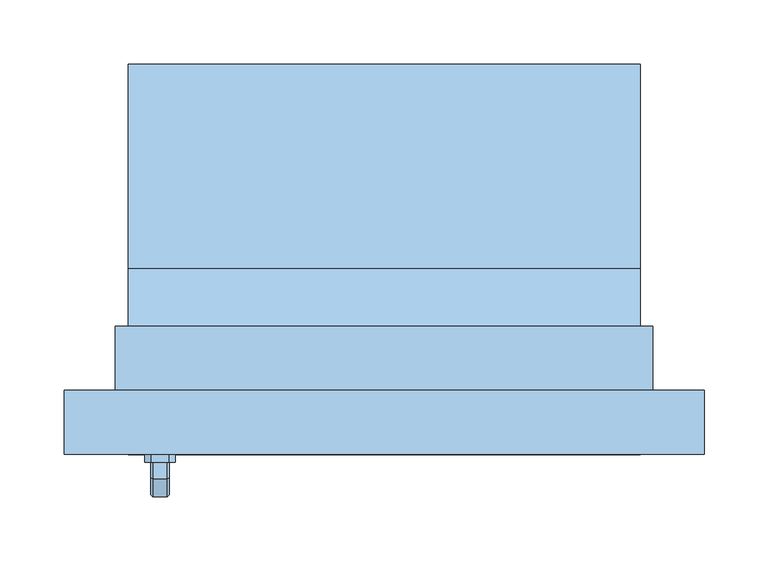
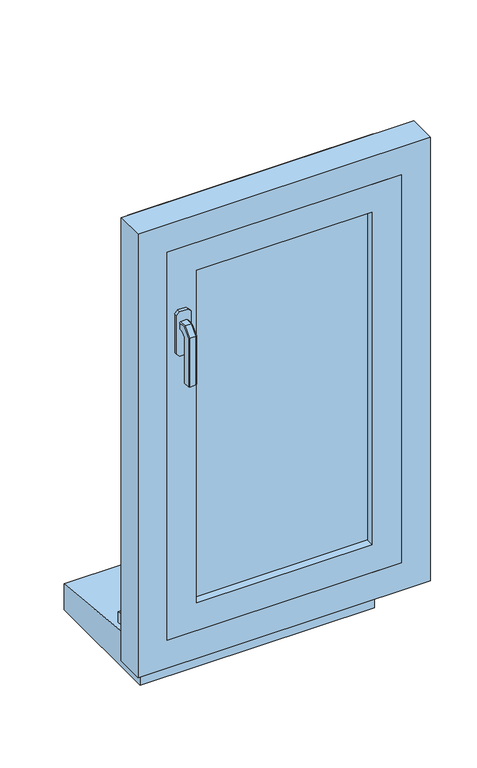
"""IFC4 building model written with IfcOpenShell, lengths in millimetres: window geometry, 1 Vantail droit - Volet et petits bois : 0.40m x 0.75m - Appui Béton."""

from ifc_helpers import new_model, si_unit, frame, origin, place, context, project, spatial, polyline, outline, extrude, faceted_brep, source, transform, mapped, element, save


def window_1ed28ddb(model_context):
    return source(origin(), model_context, "Body", "SolidModel", [
        faceted_brep([(-169.3539903, -151.0, 1422.0339292), (-167.9660708, -151.0, 1420.6460097), (-167.9660708, -151.0, 1409.3323012), (-169.3323012, -151.0, 1407.9660708), (-180.6676988, -151.0, 1407.9660708), (-182.0339292, -151.0, 1409.3323012), (-182.0339292, -151.0, 1420.6460097), (-180.6460097, -151.0, 1422.0339292), (-169.3539903, -163.9135489, 1422.0339292), (-167.9660708, -163.3386538, 1420.6460097), (-167.9660708, -176.6460097, 1407.3386538), (-167.9660708, -176.6460097, 1320.0), (-167.9660708, -165.3323012, 1320.0), (-167.9660708, -165.3323012, 1402.6523623), (-167.9660708, -158.6523623, 1409.3323012), (-169.3323012, -158.0864511, 1407.9660708), (-180.6676988, -158.0864511, 1407.9660708), (-182.0339292, -158.6523623, 1409.3323012), (-182.0339292, -165.3323012, 1402.6523623), (-182.0339292, -165.3323012, 1320.0), (-182.0339292, -176.6460097, 1320.0), (-182.0339292, -176.6460097, 1407.3386538), (-182.0339292, -163.3386538, 1420.6460097), (-180.6460097, -163.9135489, 1422.0339292), (-169.3539903, -178.0339292, 1407.9135489), (-169.3323012, -163.9660708, 1402.0864511), (-180.6676988, -163.9660708, 1402.0864511), (-180.6460097, -178.0339292, 1407.9135489), (-169.3539903, -178.0339292, 1320.0), (-180.6460097, -178.0339292, 1320.0), (-180.6676988, -163.9660708, 1320.0), (-169.3323012, -163.9660708, 1320.0)], [[[0, 1, 2, 3, 4, 5, 6, 7]], [[1, 0, 8, 9]], [[2, 1, 9, 10, 11, 12, 13, 14]], [[3, 2, 14, 15]], [[4, 3, 15, 16]], [[5, 4, 16, 17]], [[6, 5, 17, 18, 19, 20, 21, 22]], [[7, 6, 22, 23]], [[0, 7, 23, 8]], [[9, 8, 24, 10]], [[15, 14, 13, 25]], [[16, 15, 25, 26]], [[17, 16, 26, 18]], [[23, 22, 21, 27]], [[8, 23, 27, 24]], [[28, 29, 20, 19, 30, 31, 12, 11]], [[10, 24, 28, 11]], [[25, 13, 12, 31]], [[26, 25, 31, 30]], [[18, 26, 30, 19]], [[27, 21, 20, 29]], [[24, 27, 29, 28]]]),
        extrude(outline(polyline([(1440.0, -168.0), (1440.0, -182.0), (1435.0, -187.0), (1365.0, -187.0), (1360.0, -182.0), (1360.0, -168.0), (1365.0, -163.0), (1435.0, -163.0), (1440.0, -168.0)])), frame((0.0, -151.0, 0.0), z_axis=(0.0, 1.0, 0.0), x_axis=(0.0, 0.0, 1.0)), (0.0, 0.0, 1.0), 6.0),
        extrude(outline(polyline([(-65.0, 800.0), (-15.0, 800.0), (-15.0, 785.0), (160.0, 766.6067588), (160.0, 720.0), (-65.0, 720.0), (-65.0, 800.0)])), frame((-200.0, 0.0, 0.0), z_axis=(1.0, 0.0, 0.0), x_axis=(0.0, 1.0, 0.0)), (0.0, 0.0, 1.0), 400.0),
        extrude(outline(polyline([(-150.0, -119.0), (150.0, -119.0), (150.0, -131.0), (-150.0, -131.0), (-150.0, -119.0)])), frame((0.0, 0.0, 900.0), z_axis=(0.0, 0.0, 1.0), x_axis=(1.0, 0.0, 0.0)), (0.0, 0.0, 1.0), 600.0),
        extrude(outline(polyline([(850.0, 200.0), (1550.0, 200.0), (1550.0, -200.0), (850.0, -200.0), (850.0, 200.0)]), holes=[polyline([(900.0, -150.0), (1500.0, -150.0), (1500.0, 150.0), (900.0, 150.0), (900.0, -150.0)])]), frame((0.0, -145.0, 0.0), z_axis=(0.0, 1.0, 0.0), x_axis=(0.0, 0.0, 1.0)), (0.0, 0.0, 1.0), 40.0),
        faceted_brep([(-250.0, -145.0, 800.0), (-250.0, -95.0, 800.0), (-200.0, -95.0, 800.0), (-200.0, -10.0, 800.0), (200.0, -10.0, 800.0), (200.0, -95.0, 800.0), (250.0, -95.0, 800.0), (250.0, -145.0, 800.0), (-250.0, -145.0, 1600.0), (-250.0, -95.0, 1600.0), (250.0, -95.0, 1600.0), (200.0, -95.0, 839.3761425), (-200.0, -95.0, 839.3761425), (-185.0, -95.0, 1535.0), (-185.0, -95.0, 865.0), (185.0, -95.0, 865.0), (185.0, -95.0, 1535.0), (-200.0, 0.0, 813.9209692), (-200.0, 0.0, 795.0), (-200.0, -10.0, 795.0), (200.0, -10.0, 795.0), (200.0, 0.0, 795.0), (200.0, 0.0, 813.9209692), (250.0, -145.0, 1600.0), (200.0, -145.0, 1550.0), (200.0, -145.0, 850.0), (-200.0, -145.0, 850.0), (-200.0, -145.0, 1550.0), (-185.0, -105.0, 1535.0), (-185.0, -105.0, 865.0), (185.0, -105.0, 865.0), (185.0, -105.0, 1535.0), (200.0, -105.0, 1550.0), (-200.0, -105.0, 1550.0), (-200.0, -105.0, 850.0), (200.0, -105.0, 850.0)], [[[0, 1, 2, 3, 4, 5, 6, 7]], [[1, 0, 8, 9]], [[1, 9, 10, 6, 5, 11, 12, 2], [13, 14, 15, 16]], [[12, 17, 18, 19, 3, 2]], [[3, 19, 20, 4]], [[4, 20, 21, 22, 11, 5]], [[6, 10, 23, 7]], [[0, 7, 23, 8], [24, 25, 26, 27]], [[13, 28, 29, 14]], [[29, 30, 15, 14]], [[31, 16, 15, 30]], [[17, 12, 11, 22]], [[32, 33, 34, 35], [28, 31, 30, 29]], [[34, 33, 27, 26]], [[26, 25, 35, 34]], [[24, 32, 35, 25]], [[18, 17, 22, 21]], [[19, 18, 21, 20]], [[13, 16, 31, 28]], [[33, 32, 24, 27]], [[10, 9, 8, 23]]]),
        extrude(outline(polyline([(800.0, -210.0), (800.0, -200.0), (1550.0, -200.0), (1550.0, 200.0), (800.0, 200.0), (800.0, 210.0), (1560.0, 210.0), (1560.0, -210.0), (800.0, -210.0)])), frame((0.0, -95.0, 0.0), z_axis=(0.0, 1.0, 0.0), x_axis=(0.0, 0.0, 1.0)), (0.0, 0.0, 1.0), 50.0),
    ])


if __name__ == "__main__":
    model = new_model("IFC4")
    model_context = context("Model", 3, world=origin())
    ifc_project = project(units=[si_unit("LENGTHUNIT", "METRE", prefix="MILLI")], contexts=[model_context])
    site = spatial("IfcSite", under=ifc_project)
    building = spatial("IfcBuilding", under=site)
    placement = place(None, origin())
    window_shape = window_1ed28ddb(model_context)
    element("IfcWindow", 1, ObjectType="1 Vantail droit - Volet et petits bois : 0.40m x 0.75m - Appui Béton", at=placement, inside=building, context=model_context, shape_type="MappedRepresentation", body=[
        mapped(window_shape, transform((0.0, 0.0, 0.0), x_axis=(1.0, 0.0, 0.0), y_axis=(0.0, 1.0, 0.0), z_axis=(0.0, 0.0, 1.0))),
    ])
    save(model, "model.ifc")
